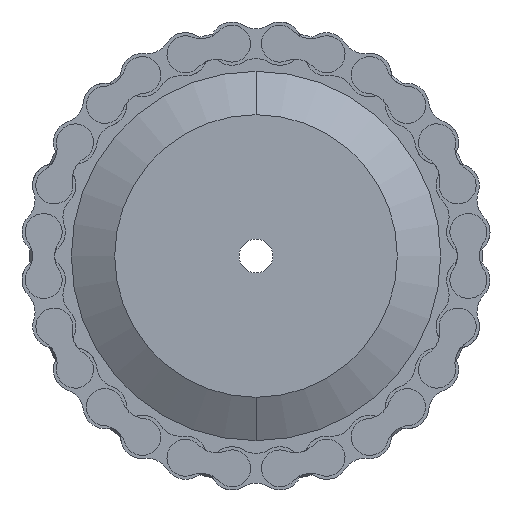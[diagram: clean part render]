
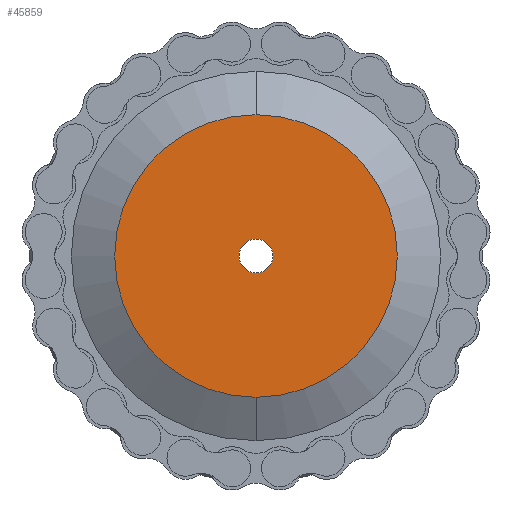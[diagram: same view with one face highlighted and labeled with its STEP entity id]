
A CAD part, left-side view. The second image highlights one B-rep face of the part: STEP entity #45859.
In plain terms, the highlighted planar face has unit normal (-1, 0, 0).
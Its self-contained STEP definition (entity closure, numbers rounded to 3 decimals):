
#4009 = DIRECTION ( 'NONE',  ( 0., 0., -1. ) ) ;
#4010 = DIRECTION ( 'NONE',  ( 1., 0., 0. ) ) ;
#4011 = CARTESIAN_POINT ( 'NONE',  ( -78.7, 0., 0. ) ) ;
#4012 = AXIS2_PLACEMENT_3D ( 'NONE', #4011, #4010, #4009 ) ;
#4013 = CIRCLE ( 'NONE', #4012, 75. ) ;
#4124 = DIRECTION ( 'NONE',  ( 0., 0., 1. ) ) ;
#4125 = DIRECTION ( 'NONE',  ( -1., 0., 0. ) ) ;
#4126 = CARTESIAN_POINT ( 'NONE',  ( -78.7, 75., 0. ) ) ;
#4127 = AXIS2_PLACEMENT_3D ( 'NONE', #4126, #4125, #4124 ) ;
#4128 = PLANE ( 'NONE',  #4127 ) ;
#4129 = FACE_OUTER_BOUND ( 'NONE', #45744, .T. ) ;
#4130 = FACE_BOUND ( 'NONE', #45864, .T. ) ;
#4160 = DIRECTION ( 'NONE',  ( 0., 0., 1. ) ) ;
#4161 = DIRECTION ( 'NONE',  ( -1., 0., 0. ) ) ;
#4162 = CARTESIAN_POINT ( 'NONE',  ( -78.7, 0., 0. ) ) ;
#4163 = AXIS2_PLACEMENT_3D ( 'NONE', #4162, #4161, #4160 ) ;
#4164 = CIRCLE ( 'NONE', #4163, 9. ) ;
#25933 = CARTESIAN_POINT ( 'NONE',  ( -78.7, 0., 75. ) ) ;
#25934 = CARTESIAN_POINT ( 'NONE',  ( -78.7, 0., -75. ) ) ;
#25935 = DIRECTION ( 'NONE',  ( 0., 0., -1. ) ) ;
#25936 = DIRECTION ( 'NONE',  ( 1., 0., 0. ) ) ;
#25937 = CARTESIAN_POINT ( 'NONE',  ( -78.7, 0., 0. ) ) ;
#25938 = AXIS2_PLACEMENT_3D ( 'NONE', #25937, #25936, #25935 ) ;
#25939 = CIRCLE ( 'NONE', #25938, 75. ) ;
#26925 = CARTESIAN_POINT ( 'NONE',  ( -78.7, 0., 9. ) ) ;
#26926 = DIRECTION ( 'NONE',  ( 0., 0., 1. ) ) ;
#26927 = DIRECTION ( 'NONE',  ( -1., 0., 0. ) ) ;
#26928 = CARTESIAN_POINT ( 'NONE',  ( -78.7, 0., 0. ) ) ;
#26929 = AXIS2_PLACEMENT_3D ( 'NONE', #26928, #26927, #26926 ) ;
#26930 = CIRCLE ( 'NONE', #26929, 9. ) ;
#26933 = CARTESIAN_POINT ( 'NONE',  ( -78.7, 0., -9. ) ) ;
#43071 = EDGE_CURVE ( 'NONE', #43072, #43073, #25939, .T. ) ;
#43072 = VERTEX_POINT ( 'NONE', #25934 ) ;
#43073 = VERTEX_POINT ( 'NONE', #25933 ) ;
#43427 = VERTEX_POINT ( 'NONE', #26933 ) ;
#43430 = EDGE_CURVE ( 'NONE', #43427, #43431, #26930, .T. ) ;
#43431 = VERTEX_POINT ( 'NONE', #26925 ) ;
#45744 = EDGE_LOOP ( 'NONE', ( #45750, #45754 ) ) ;
#45750 = ORIENTED_EDGE ( 'NONE', *, *, #43071, .F. ) ;
#45754 = ORIENTED_EDGE ( 'NONE', *, *, #45760, .F. ) ;
#45760 = EDGE_CURVE ( 'NONE', #43073, #43072, #4013, .T. ) ;
#45859 = ADVANCED_FACE ( 'NONE', ( #4130, #4129 ), #4128, .T. ) ;
#45864 = EDGE_LOOP ( 'NONE', ( #45868, #45881 ) ) ;
#45868 = ORIENTED_EDGE ( 'NONE', *, *, #45874, .F. ) ;
#45874 = EDGE_CURVE ( 'NONE', #43431, #43427, #4164, .T. ) ;
#45881 = ORIENTED_EDGE ( 'NONE', *, *, #43430, .F. ) ;
